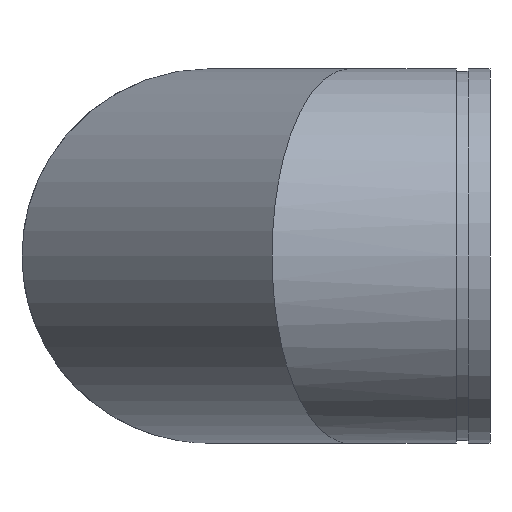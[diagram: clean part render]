
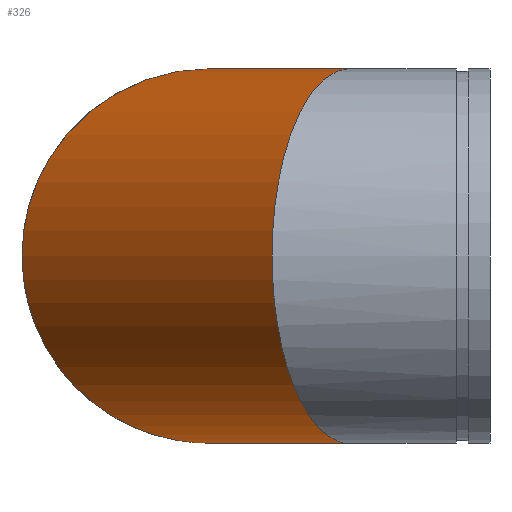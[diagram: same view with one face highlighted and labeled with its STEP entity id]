
A CAD part, left-side view. The second image highlights one B-rep face of the part: STEP entity #326.
In plain terms, the highlighted cylindrical face has radius 203.2 mm (diameter 406.4 mm), a full revolution.
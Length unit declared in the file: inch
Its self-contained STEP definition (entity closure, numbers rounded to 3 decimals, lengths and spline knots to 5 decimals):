
#51=ELLIPSE('',#383,8.65914,8.);
#52=ELLIPSE('',#384,8.65914,8.);
#53=ELLIPSE('',#385,8.65914,8.);
#54=ELLIPSE('',#388,8.65914,8.);
#55=ELLIPSE('',#389,8.65914,8.);
#56=ELLIPSE('',#390,8.65914,8.);
#82=FACE_OUTER_BOUND('',#103,.T.);
#103=EDGE_LOOP('',(#269,#270,#271,#272,#273,#274,#275,#276));
#115=LINE('',#606,#125);
#125=VECTOR('',#494,8.);
#165=VERTEX_POINT('',#596);
#166=VERTEX_POINT('',#598);
#167=VERTEX_POINT('',#600);
#168=VERTEX_POINT('',#605);
#169=VERTEX_POINT('',#607);
#170=VERTEX_POINT('',#609);
#201=EDGE_CURVE('',#165,#166,#51,.T.);
#202=EDGE_CURVE('',#167,#166,#52,.T.);
#203=EDGE_CURVE('',#167,#165,#53,.T.);
#204=EDGE_CURVE('',#165,#168,#115,.T.);
#205=EDGE_CURVE('',#168,#169,#54,.T.);
#206=EDGE_CURVE('',#170,#169,#55,.T.);
#207=EDGE_CURVE('',#170,#168,#56,.T.);
#269=ORIENTED_EDGE('',*,*,#203,.F.);
#270=ORIENTED_EDGE('',*,*,#202,.T.);
#271=ORIENTED_EDGE('',*,*,#201,.F.);
#272=ORIENTED_EDGE('',*,*,#204,.T.);
#273=ORIENTED_EDGE('',*,*,#205,.T.);
#274=ORIENTED_EDGE('',*,*,#206,.F.);
#275=ORIENTED_EDGE('',*,*,#207,.T.);
#276=ORIENTED_EDGE('',*,*,#204,.F.);
#293=CYLINDRICAL_SURFACE('',#387,8.);
#326=ADVANCED_FACE('',(#82),#293,.T.);
#383=AXIS2_PLACEMENT_3D('',#599,#484,#485);
#384=AXIS2_PLACEMENT_3D('',#601,#486,#487);
#385=AXIS2_PLACEMENT_3D('',#602,#488,#489);
#387=AXIS2_PLACEMENT_3D('',#604,#492,#493);
#388=AXIS2_PLACEMENT_3D('',#608,#495,#496);
#389=AXIS2_PLACEMENT_3D('',#610,#497,#498);
#390=AXIS2_PLACEMENT_3D('',#611,#499,#500);
#484=DIRECTION('center_axis',(-0.383,-0.924,0.));
#485=DIRECTION('ref_axis',(0.924,-0.383,0.));
#486=DIRECTION('center_axis',(0.383,0.924,0.));
#487=DIRECTION('ref_axis',(0.924,-0.383,0.));
#488=DIRECTION('center_axis',(-0.383,-0.924,0.));
#489=DIRECTION('ref_axis',(0.924,-0.383,0.));
#492=DIRECTION('center_axis',(-0.707,-0.707,0.));
#493=DIRECTION('ref_axis',(0.707,-0.707,0.));
#494=DIRECTION('',(0.707,0.707,0.));
#495=DIRECTION('center_axis',(-0.924,-0.383,0.));
#496=DIRECTION('ref_axis',(0.383,-0.924,0.));
#497=DIRECTION('center_axis',(0.924,0.383,0.));
#498=DIRECTION('ref_axis',(0.383,-0.924,0.));
#499=DIRECTION('center_axis',(-0.924,-0.383,0.));
#500=DIRECTION('ref_axis',(0.383,-0.924,0.));
#596=CARTESIAN_POINT('',(-8.,-2.68629,0.));
#598=CARTESIAN_POINT('',(0.,-6.,-8.));
#599=CARTESIAN_POINT('Origin',(0.,-6.,0.));
#600=CARTESIAN_POINT('',(0.,-6.,8.));
#601=CARTESIAN_POINT('Origin',(0.,-6.,0.));
#602=CARTESIAN_POINT('Origin',(0.,-6.,0.));
#604=CARTESIAN_POINT('Origin',(6.,0.,0.));
#605=CARTESIAN_POINT('',(2.68629,8.,0.));
#606=CARTESIAN_POINT('',(0.34315,5.65685,0.));
#607=CARTESIAN_POINT('',(6.,0.,-8.));
#608=CARTESIAN_POINT('Origin',(6.,0.,0.));
#609=CARTESIAN_POINT('',(6.,0.,8.));
#610=CARTESIAN_POINT('Origin',(6.,0.,0.));
#611=CARTESIAN_POINT('Origin',(6.,0.,0.));
